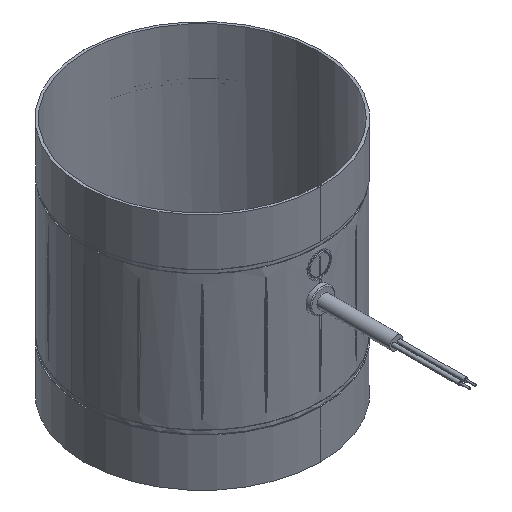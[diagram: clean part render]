
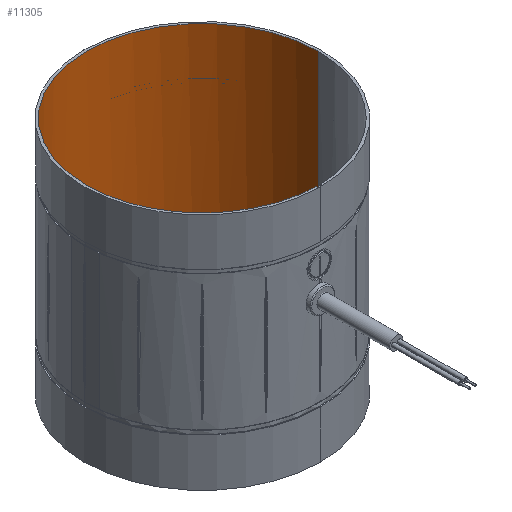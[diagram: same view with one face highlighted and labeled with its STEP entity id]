
A CAD part, isometric view. The second image highlights one B-rep face of the part: STEP entity #11305.
In plain terms, the highlighted cylindrical face has radius 60.75 mm (diameter 121.5 mm), a partial arc.
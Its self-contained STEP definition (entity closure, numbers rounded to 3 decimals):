
#104 = CIRCLE ( 'NONE', #1819, 60.75 ) ;
#123 = LINE ( 'NONE', #10857, #125 ) ;
#125 = VECTOR ( 'NONE', #10878, 1000. ) ;
#176 = CIRCLE ( 'NONE', #1848, 60.75 ) ;
#224 = LINE ( 'NONE', #2176, #226 ) ;
#226 = VECTOR ( 'NONE', #2177, 1000. ) ;
#288 = CIRCLE ( 'NONE', #1901, 60.75 ) ;
#310 = CIRCLE ( 'NONE', #1915, 60.75 ) ;
#347 = FACE_OUTER_BOUND ( 'NONE', #9888, .T. ) ;
#348 = CYLINDRICAL_SURFACE ( 'NONE', #1931, 60.75 ) ;
#549 = CARTESIAN_POINT ( 'NONE',  ( -26.117, 54.849, 38.15 ) ) ;
#606 = CARTESIAN_POINT ( 'NONE',  ( -26.103, 54.856, 37.361 ) ) ;
#612 = CARTESIAN_POINT ( 'NONE',  ( -26.088, 54.863, 36.573 ) ) ;
#640 = CARTESIAN_POINT ( 'NONE',  ( -26.074, 54.87, 35.784 ) ) ;
#1150 = ORIENTED_EDGE ( 'NONE', *, *, #1534, .F. ) ;
#1151 = ORIENTED_EDGE ( 'NONE', *, *, #1616, .T. ) ;
#1152 = ORIENTED_EDGE ( 'NONE', *, *, #1414, .T. ) ;
#1153 = ORIENTED_EDGE ( 'NONE', *, *, #1506, .T. ) ;
#1154 = ORIENTED_EDGE ( 'NONE', *, *, #1491, .T. ) ;
#1155 = ORIENTED_EDGE ( 'NONE', *, *, #4946, .T. ) ;
#1156 = ORIENTED_EDGE ( 'NONE', *, *, #1666, .T. ) ;
#1157 = ORIENTED_EDGE ( 'NONE', *, *, #11100, .T. ) ;
#1414 = EDGE_CURVE ( 'NONE', #5046, #2833, #11692, .T. ) ;
#1491 = EDGE_CURVE ( 'NONE', #4975, #5000, #11662, .T. ) ;
#1506 = EDGE_CURVE ( 'NONE', #2833, #4975, #104, .T. ) ;
#1534 = EDGE_CURVE ( 'NONE', #2457, #2535, #123, .T. ) ;
#1616 = EDGE_CURVE ( 'NONE', #2457, #5046, #176, .T. ) ;
#1666 = EDGE_CURVE ( 'NONE', #4981, #2660, #224, .T. ) ;
#1819 = AXIS2_PLACEMENT_3D ( 'NONE', #10290, #10295, #10288 ) ;
#1848 = AXIS2_PLACEMENT_3D ( 'NONE', #10205, #10204, #10203 ) ;
#1901 = AXIS2_PLACEMENT_3D ( 'NONE', #2992, #2993, #2994 ) ;
#1915 = AXIS2_PLACEMENT_3D ( 'NONE', #3529, #3530, #3531 ) ;
#1931 = AXIS2_PLACEMENT_3D ( 'NONE', #4059, #3933, #3932 ) ;
#2176 = CARTESIAN_POINT ( 'NONE',  ( 60.75, 0., 33.631 ) ) ;
#2177 = DIRECTION ( 'NONE',  ( 0., 0., 1. ) ) ;
#2457 = VERTEX_POINT ( 'NONE', #2854 ) ;
#2535 = VERTEX_POINT ( 'NONE', #2911 ) ;
#2660 = VERTEX_POINT ( 'NONE', #2906 ) ;
#2833 = VERTEX_POINT ( 'NONE', #2914 ) ;
#2854 = CARTESIAN_POINT ( 'NONE',  ( -60.75, 0., 35.784 ) ) ;
#2906 = CARTESIAN_POINT ( 'NONE',  ( 60.75, 0., 158.631 ) ) ;
#2911 = CARTESIAN_POINT ( 'NONE',  ( -60.75, 0., 158.631 ) ) ;
#2914 = CARTESIAN_POINT ( 'NONE',  ( -29.023, 53.369, 38.15 ) ) ;
#2992 = CARTESIAN_POINT ( 'NONE',  ( 0., 0., 35.784 ) ) ;
#2993 = DIRECTION ( 'NONE',  ( 0., 0., -1. ) ) ;
#2994 = DIRECTION ( 'NONE',  ( -1., 0., 0. ) ) ;
#3075 = CARTESIAN_POINT ( 'NONE',  ( -26.117, 54.849, 38.15 ) ) ;
#3080 = CARTESIAN_POINT ( 'NONE',  ( 60.75, 0., 35.784 ) ) ;
#3099 = CARTESIAN_POINT ( 'NONE',  ( -26.074, 54.87, 35.784 ) ) ;
#3145 = CARTESIAN_POINT ( 'NONE',  ( -29.065, 53.346, 35.784 ) ) ;
#3529 = CARTESIAN_POINT ( 'NONE',  ( 0., 0., 158.631 ) ) ;
#3530 = DIRECTION ( 'NONE',  ( 0., 0., 1. ) ) ;
#3531 = DIRECTION ( 'NONE',  ( 1., 0., 0. ) ) ;
#3932 = DIRECTION ( 'NONE',  ( 1., 0., 0. ) ) ;
#3933 = DIRECTION ( 'NONE',  ( 0., 0., 1. ) ) ;
#4059 = CARTESIAN_POINT ( 'NONE',  ( 0., 0., 33.631 ) ) ;
#4946 = EDGE_CURVE ( 'NONE', #5000, #4981, #288, .T. ) ;
#4975 = VERTEX_POINT ( 'NONE', #3075 ) ;
#4981 = VERTEX_POINT ( 'NONE', #3080 ) ;
#5000 = VERTEX_POINT ( 'NONE', #3099 ) ;
#5046 = VERTEX_POINT ( 'NONE', #3145 ) ;
#8234 = CARTESIAN_POINT ( 'NONE',  ( -29.037, 53.361, 37.361 ) ) ;
#8271 = CARTESIAN_POINT ( 'NONE',  ( -29.065, 53.346, 35.784 ) ) ;
#8457 = CARTESIAN_POINT ( 'NONE',  ( -29.023, 53.369, 38.15 ) ) ;
#8475 = CARTESIAN_POINT ( 'NONE',  ( -29.051, 53.354, 36.573 ) ) ;
#9888 = EDGE_LOOP ( 'NONE', ( #1150, #1151, #1152, #1153, #1154, #1155, #1156, #1157 ) ) ;
#10203 = DIRECTION ( 'NONE',  ( -1., 0., 0. ) ) ;
#10204 = DIRECTION ( 'NONE',  ( 0., 0., -1. ) ) ;
#10205 = CARTESIAN_POINT ( 'NONE',  ( 0., 0., 35.784 ) ) ;
#10288 = DIRECTION ( 'NONE',  ( -1., 0., 0. ) ) ;
#10290 = CARTESIAN_POINT ( 'NONE',  ( 0., 0., 38.15 ) ) ;
#10295 = DIRECTION ( 'NONE',  ( 0., 0., -1. ) ) ;
#10857 = CARTESIAN_POINT ( 'NONE',  ( -60.75, 0., 33.631 ) ) ;
#10878 = DIRECTION ( 'NONE',  ( 0., 0., 1. ) ) ;
#11100 = EDGE_CURVE ( 'NONE', #2660, #2535, #310, .T. ) ;
#11305 = ADVANCED_FACE ( 'NONE', ( #347 ), #348, .F. ) ;
#11662 = B_SPLINE_CURVE_WITH_KNOTS ( 'NONE', 3,
 ( #549, #606, #612, #640 ),
 .UNSPECIFIED., .F., .F.,
 ( 4, 4 ),
 ( 0., 0.002 ),
 .UNSPECIFIED. ) ;
#11692 = B_SPLINE_CURVE_WITH_KNOTS ( 'NONE', 3,
 ( #8271, #8475, #8234, #8457 ),
 .UNSPECIFIED., .F., .F.,
 ( 4, 4 ),
 ( 0.001, 0.003 ),
 .UNSPECIFIED. ) ;
